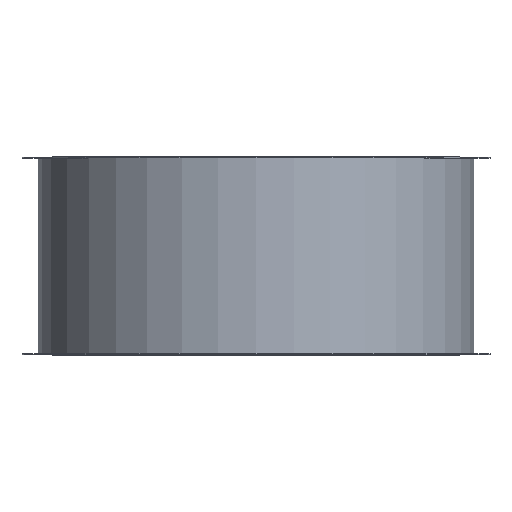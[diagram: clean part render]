
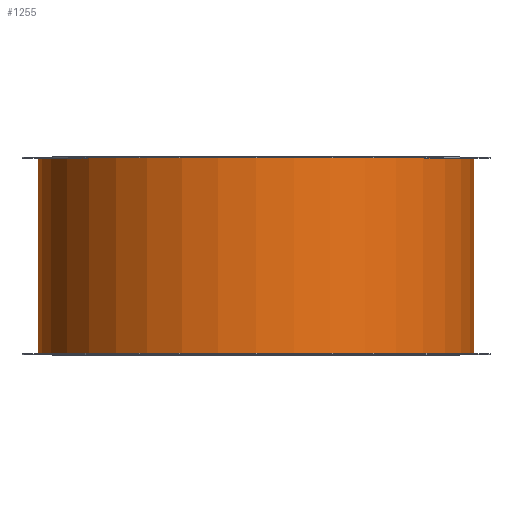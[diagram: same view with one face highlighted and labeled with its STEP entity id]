
A CAD part, top view. The second image highlights one B-rep face of the part: STEP entity #1255.
In plain terms, the highlighted cylindrical face has radius 628 mm (diameter 1256 mm), a full revolution.
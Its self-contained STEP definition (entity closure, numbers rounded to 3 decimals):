
#171=FACE_OUTER_BOUND('',#277,.T.);
#277=EDGE_LOOP('',(#1083,#1084,#1085,#1086,#1087,#1088));
#381=LINE('',#2157,#433);
#433=VECTOR('',#1821,628.);
#539=CIRCLE('',#1435,628.);
#540=CIRCLE('',#1436,628.);
#541=CIRCLE('',#1438,628.);
#542=CIRCLE('',#1439,628.);
#651=VERTEX_POINT('',#2148);
#652=VERTEX_POINT('',#2149);
#653=VERTEX_POINT('',#2153);
#654=VERTEX_POINT('',#2154);
#813=EDGE_CURVE('',#651,#652,#539,.T.);
#814=EDGE_CURVE('',#652,#651,#540,.T.);
#815=EDGE_CURVE('',#653,#654,#541,.T.);
#816=EDGE_CURVE('',#654,#653,#542,.T.);
#817=EDGE_CURVE('',#654,#652,#381,.T.);
#1083=ORIENTED_EDGE('',*,*,#815,.F.);
#1084=ORIENTED_EDGE('',*,*,#816,.F.);
#1085=ORIENTED_EDGE('',*,*,#817,.T.);
#1086=ORIENTED_EDGE('',*,*,#814,.T.);
#1087=ORIENTED_EDGE('',*,*,#813,.T.);
#1088=ORIENTED_EDGE('',*,*,#817,.F.);
#1201=CYLINDRICAL_SURFACE('',#1437,628.);
#1255=ADVANCED_FACE('',(#171),#1201,.T.);
#1435=AXIS2_PLACEMENT_3D('',#2150,#1811,#1812);
#1436=AXIS2_PLACEMENT_3D('',#2151,#1813,#1814);
#1437=AXIS2_PLACEMENT_3D('',#2152,#1815,#1816);
#1438=AXIS2_PLACEMENT_3D('',#2155,#1817,#1818);
#1439=AXIS2_PLACEMENT_3D('',#2156,#1819,#1820);
#1811=DIRECTION('center_axis',(0.,1.,0.));
#1812=DIRECTION('ref_axis',(1.,0.,0.));
#1813=DIRECTION('center_axis',(0.,1.,0.));
#1814=DIRECTION('ref_axis',(1.,0.,0.));
#1815=DIRECTION('center_axis',(0.,1.,0.));
#1816=DIRECTION('ref_axis',(-1.,0.,0.));
#1817=DIRECTION('center_axis',(0.,1.,0.));
#1818=DIRECTION('ref_axis',(1.,0.,0.));
#1819=DIRECTION('center_axis',(0.,1.,0.));
#1820=DIRECTION('ref_axis',(1.,0.,0.));
#1821=DIRECTION('',(0.,-1.,0.));
#2148=CARTESIAN_POINT('',(-628.,3.,0.));
#2149=CARTESIAN_POINT('',(628.,3.,0.));
#2150=CARTESIAN_POINT('Origin',(0.,3.,0.));
#2151=CARTESIAN_POINT('Origin',(0.,3.,0.));
#2152=CARTESIAN_POINT('Origin',(0.,285.,0.));
#2153=CARTESIAN_POINT('',(-628.,567.,0.));
#2154=CARTESIAN_POINT('',(628.,567.,0.));
#2155=CARTESIAN_POINT('Origin',(0.,567.,0.));
#2156=CARTESIAN_POINT('Origin',(0.,567.,0.));
#2157=CARTESIAN_POINT('',(628.,285.,0.));
